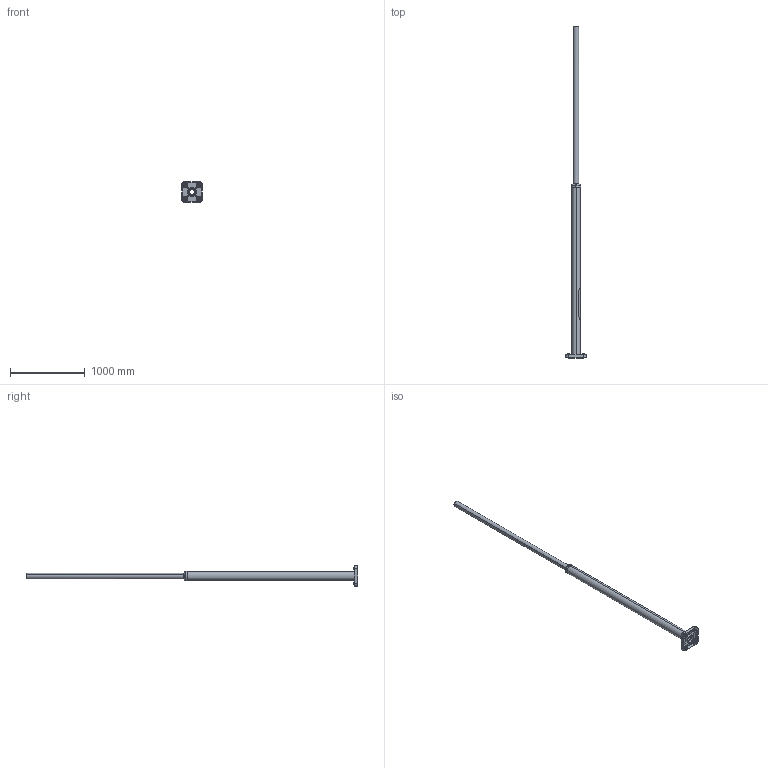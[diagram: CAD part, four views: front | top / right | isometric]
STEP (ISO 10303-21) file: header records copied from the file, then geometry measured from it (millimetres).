
FILE_DESCRIPTION (( 'STEP AP203' ), '1' );
FILE_NAME ('3004.STEP', '2020-07-09T11:41:57', ( '' ), ( '' ), 'SwSTEP 2.0', 'SolidWorks 2019', '' );
FILE_SCHEMA (( 'CONFIG_CONTROL_DESIGN' ));
Length unit declared in the file: millimetre
Products named in the file (11): S｣UP 120_76_RURA 76x3_rs_W3; GNIAZ_M6x_M6x20_rs; 3004; WKR STOZ IMB M5x_rs_x12; SEGMENT DOLNY_S｣UP 120_76_rs_Podstawa 200; S£UP 120_76_Podstawa 200_rs_Obr¢bka NC pod nakr©tke Podst 200; S｣UP 120_76_RURA 120x4_rs_W3; S｣UP 120_76_DRZWICZKI_rs_Obr｢bka W1; S£UP 120_76_TULEJA GÓRNA 120_76_rs_120_76; S£UP 120_76_Podstawa 200_ZAŒLEPKA_rs; POD 6,4_rs
Assembly tree (20 placements, depth 3):
  3004
    SEGMENT DOLNY_S｣UP 120_76_rs_Podstawa 200
      S｣UP 120_76_RURA 120x4_rs_W3
      S£UP 120_76_Podstawa 200_rs_Obr¢bka NC pod nakr©tke Podst 200
    S£UP 120_76_TULEJA GÓRNA 120_76_rs_120_76
    S｣UP 120_76_RURA 76x3_rs_W3
    GNIAZ_M6x_M6x20_rs  x4
    S｣UP 120_76_DRZWICZKI_rs_Obr｢bka W1
    POD 6,4_rs  x4
    WKR STOZ IMB M5x_rs_x12  x2
    S£UP 120_76_Podstawa 200_ZAŒLEPKA_rs  x4
Bounding box: 276 x 4452 x 276 mm (x, y, z)
Volume: 6010788.8 mm3; surface area: 3090897 mm2
Topology: 19 solids, 19 shells, 1418 faces, 3361 edges, 2168 vertices
Faces by surface type: plane 1128, cylinder 108, cone 86, bspline 44, torus 28, sphere 24
Entity records: 42936 total; most frequent: CARTESIAN_POINT 11952, ORIENTED_EDGE 6038, DIRECTION 5967, EDGE_CURVE 3019, LINE 2179, VECTOR 2179, VERTEX_POINT 1975, AXIS2_PLACEMENT_3D 1894
